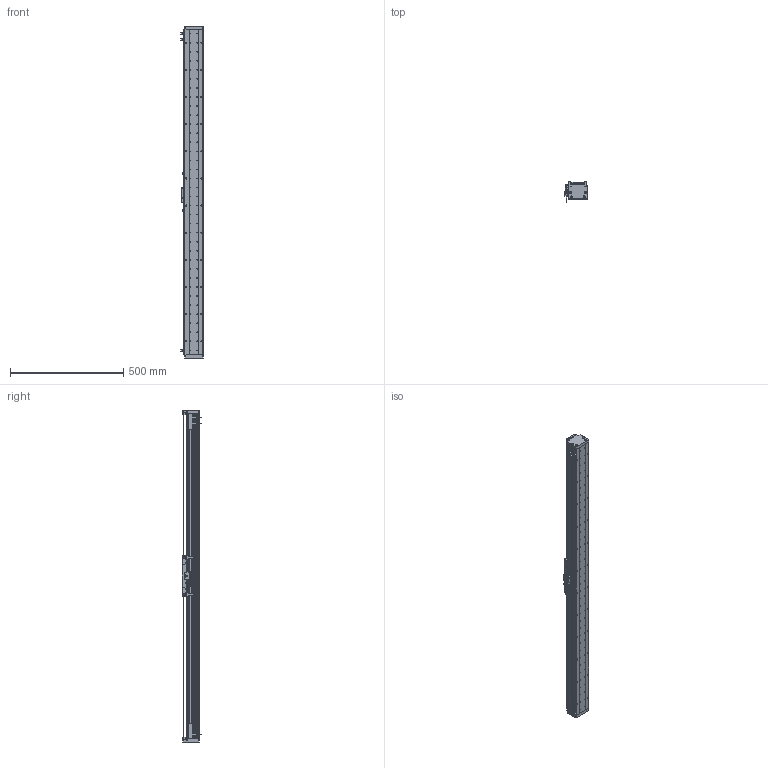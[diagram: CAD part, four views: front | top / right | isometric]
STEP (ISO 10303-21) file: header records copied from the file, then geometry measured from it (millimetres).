
FILE_DESCRIPTION (( 'STEP AP203' ), '1' );
FILE_NAME ('DA-A82-B2-T1220-C010-0.2 眻盄萇儂.STEP', '2025-08-13T03:09:12', ( '' ), ( '' ), 'SwSTEP 2.0', 'SolidWorks 2019', '' );
FILE_SCHEMA (( 'CONFIG_CONTROL_DESIGN' ));
Length unit declared in the file: millimetre
Products named in the file (23): AU82-M 幗紩賑怢; DA-A60-GYP-DMT-00 光电感应片^DA-A82-B2-T-C010-0.2(默认); ｸｴｼ BKM02-W040-C1-TP-DA-3.0 ﾖｱﾏﾟｵ扈巐ｯﾗﾓ^DA-A82-B2-T-C010-0.2; IU-AU82-L-00 菁釱(L1440); 复件 复件 17517-0000-003-00 钢带拉块^DA-A82-B2-T-C010-0.2; 葩璃 DA60-DMT-DTJ-00 黍杅芛盓殤^DA-A82-B2-T-C010-0.2; 葩璃 BKM01-W040-TRL^DA-A82-B2-T-C010-0.2; 复件 DA95-B2-GT-00 滑块钢轨^AU82-M-00 一体化滑动台板; 复件 纯铜油杯 6x6mm^AU82-M 滚珠滑台; 葩璃 DMT-010 1米m 0.2M^DA-A82-B2-T-C010-0.2; 葩璃 PM-T45^DA-A82-B2-T-C010-0.2; IU-AU82-L 菁釱絳寢; 葩璃 葩璃 17517-0000-002-00 傷啣^DA-A82-B2-T-C010-0.2; 复件 DA95-GT-T-00 底座钢轨^IU-AU82-L 底座导轨; 葩璃 DA82-B2-DP-00 結え^AU82-M 幗紩賑怢; AU82-M-00 珨极趙賑雄怢啣; 复件 复件 DA82-XJ-00 缓冲橡胶^DA-A82-B2-T-C010-0.2; 葩璃 XD-U-02  棠掑喜^DA-A82-B2-T-C010-0.2; AU82-HT-M-00 賑雄怢啣; 复件 复件 17517-0000-004-00  钢带压块^DA-A82-B2-T-C010-0.2(默认); 葩璃 鞠褒情蹟譫 M3^DA-A82-B2-T-C010-0.2; 复件 复件 复件 DA82 钢带盖板^DA-A82-B2-T-C010-0.2(默认); DA-A82-B2-T1220-C010-0.2 眻盄萇儂
Assembly tree (40 placements, depth 4):
  DA-A82-B2-T1220-C010-0.2 眻盄萇儂
    IU-AU82-L 菁釱絳寢
      IU-AU82-L-00 菁釱(L1440)
      复件 DA95-GT-T-00 底座钢轨^IU-AU82-L 底座导轨  x2
    AU82-M 幗紩賑怢
      AU82-M-00 珨极趙賑雄怢啣
        AU82-HT-M-00 賑雄怢啣
        复件 DA95-B2-GT-00 滑块钢轨^AU82-M-00 一体化滑动台板  x4
      葩璃 DA82-B2-DP-00 結え^AU82-M 幗紩賑怢  x2
      复件 纯铜油杯 6x6mm^AU82-M 滚珠滑台  x2
    葩璃 DA60-DMT-DTJ-00 黍杅芛盓殤^DA-A82-B2-T-C010-0.2
    葩璃 DMT-010 1米m 0.2M^DA-A82-B2-T-C010-0.2
    DA-A60-GYP-DMT-00 光电感应片^DA-A82-B2-T-C010-0.2(默认)  x2
    ｸｴｼ BKM02-W040-C1-TP-DA-3.0 ﾖｱﾏﾟｵ扈巐ｯﾗﾓ^DA-A82-B2-T-C010-0.2
    复件 复件 17517-0000-003-00 钢带拉块^DA-A82-B2-T-C010-0.2  x2
    复件 复件 DA82-XJ-00 缓冲橡胶^DA-A82-B2-T-C010-0.2  x2
    复件 复件 17517-0000-004-00  钢带压块^DA-A82-B2-T-C010-0.2(默认)  x2
    葩璃 葩璃 17517-0000-002-00 傷啣^DA-A82-B2-T-C010-0.2  x2
    复件 复件 复件 DA82 钢带盖板^DA-A82-B2-T-C010-0.2(默认)
    葩璃 BKM01-W040-TRL^DA-A82-B2-T-C010-0.2
    葩璃 PM-T45^DA-A82-B2-T-C010-0.2  x3
    葩璃 XD-U-02  棠掑喜^DA-A82-B2-T-C010-0.2
    葩璃 鞠褒情蹟譫 M3^DA-A82-B2-T-C010-0.2  x6
Bounding box: 98.95 x 87.2 x 1468 mm (x, y, z)
Volume: 4295809.3 mm3; surface area: 1299558 mm2
Topology: 44 solids, 68 shells, 2329 faces, 6140 edges, 3866 vertices
Faces by surface type: cylinder 1129, plane 910, cone 272, bspline 8, torus 8, sphere 2
Entity records: 63615 total; most frequent: CARTESIAN_POINT 14219, DIRECTION 9983, ORIENTED_EDGE 9384, EDGE_CURVE 4692, AXIS2_PLACEMENT_3D 3815, VERTEX_POINT 3050, EDGE_LOOP 2394, LINE 2353
